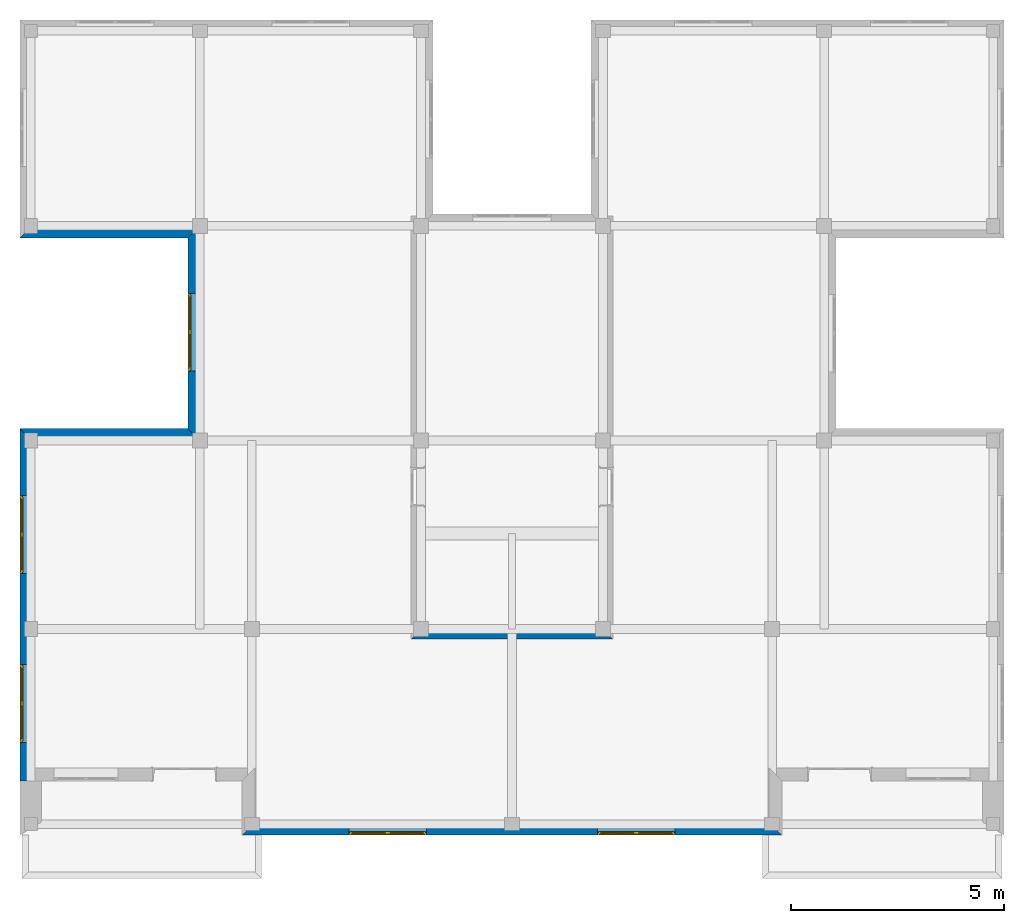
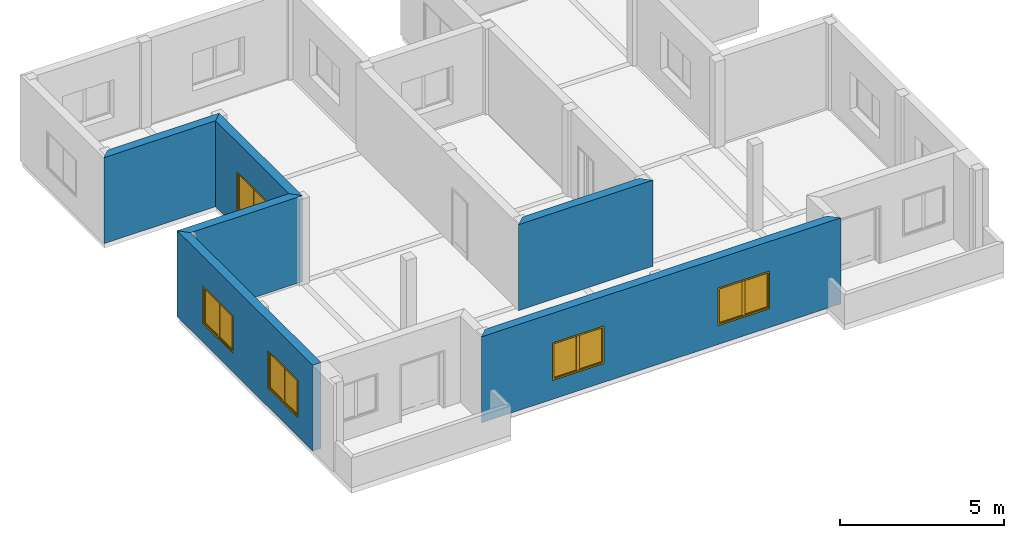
# One storey, part 3 of 6: 6 walls, 5 windows, 5 openings.
"""IFC2X3 building model written with IfcOpenShell, lengths in millimetres."""

import ifcopenshell
import ifcopenshell.guid

model = None  # the IFC model being written
_history = None  # IfcOwnerHistory: only IFC2X3 demands one
_inside = {}  # id of a spatial element -> (the spatial element, [elements in it])
_under = {}  # id of a project, library or spatial element -> (it, [spatial elements below it])
_declared = {}  # id of a project -> (the project, [libraries it declares])
_typed = {}  # id of a type object -> (the type object, [elements of that type])
_made_of = {}  # id of a material, layer set ... -> (it, [elements and type objects made of it])


def new_model(schema):
    """Start an empty IFC model of exactly this schema.

    Asked for "IFC4X3", IfcOpenShell would pick the latest addendum, in which some entities
    have other attributes; the version numbers below select the first issue.
    IFC2X3 requires an IfcOwnerHistory on every rooted entity: one is made here for all.
    """
    global model, _history
    if schema == "IFC4X3":
        model = ifcopenshell.file(schema_version=(4, 3, 0, 0))
    else:
        model = ifcopenshell.file(schema=schema)
    _inside.clear()
    _under.clear()
    _declared.clear()
    _typed.clear()
    _made_of.clear()
    _history = None
    if model.schema == "IFC2X3":
        org = make("IfcOrganization", Name="unknown")
        user = make(
            "IfcPersonAndOrganization",
            ThePerson=make("IfcPerson", FamilyName="unknown"),
            TheOrganization=org,
        )
        app = make(
            "IfcApplication",
            ApplicationDeveloper=org,
            Version="unknown",
            ApplicationFullName="unknown",
            ApplicationIdentifier="unknown",
        )
        _history = make(
            "IfcOwnerHistory",
            OwningUser=user,
            OwningApplication=app,
            ChangeAction="ADDED",
            CreationDate=0,
        )
    return model


def make(cls, **values):
    """One entity of the class cls with the attributes given. An attribute that is None is left unset."""
    return model.create_entity(
        cls, **{name: value for name, value in values.items() if value is not None}
    )


def entity(cls, *values):
    """Any entity or typed value of the class cls, its attributes in the order of the schema. None: left unset."""
    e = model.create_entity(cls)
    for i, value in enumerate(values):
        if value is not None:
            e[i] = value
    return e


def rooted(cls, **values):
    """An entity with a GlobalId (a new one), such as an element, a storey or a relation."""
    return make(cls, GlobalId=ifcopenshell.guid.new(), OwnerHistory=_history, **values)


def si_unit(unit_type, name, prefix=None):
    """IfcSIUnit, for example si_unit("LENGTHUNIT", "METRE", prefix="MILLI")."""
    return make("IfcSIUnit", UnitType=unit_type, Prefix=prefix, Name=name)


def converted_unit(unit_type, name, factor, base, dimensions=None, offset=None):
    """IfcConversionBasedUnit, such as the inch: factor (a typed value) times the base unit."""
    return make(
        "IfcConversionBasedUnit"
        if offset is None
        else "IfcConversionBasedUnitWithOffset",
        ConversionOffset=offset,
        Dimensions=None
        if dimensions is None
        else entity("IfcDimensionalExponents", *dimensions),
        UnitType=unit_type,
        Name=name,
        ConversionFactor=make(
            "IfcMeasureWithUnit", ValueComponent=factor, UnitComponent=base
        ),
    )


def assignment(units):
    """IfcUnitAssignment: the units of a project."""
    return None if units is None else make("IfcUnitAssignment", Units=units)


def point(xyz):
    """IfcCartesianPoint."""
    return None if xyz is None else make("IfcCartesianPoint", Coordinates=xyz)


def direction(xyz):
    """IfcDirection."""
    return None if xyz is None else make("IfcDirection", DirectionRatios=xyz)


def frame(location, z_axis=None, x_axis=None):
    """IfcAxis2Placement3D, a coordinate frame: its origin and axes. An axis left out is left unset."""
    return make(
        "IfcAxis2Placement3D",
        Location=point(location),
        Axis=direction(z_axis),
        RefDirection=direction(x_axis),
    )


def frame_2d(location, x_axis=None):
    """IfcAxis2Placement2D, a coordinate frame in the plane: its origin and x axis."""
    return make(
        "IfcAxis2Placement2D", Location=point(location), RefDirection=direction(x_axis)
    )


def origin_with_axes():
    """The frame at (0, 0, 0) with the z axis (0, 0, 1) and the x axis (1, 0, 0) written out."""
    return frame((0.0, 0.0, 0.0), z_axis=(0.0, 0.0, 1.0), x_axis=(1.0, 0.0, 0.0))


def origin_2d_with_axis():
    """The frame at (0, 0) in the plane with the x axis (1, 0) written out."""
    return frame_2d((0.0, 0.0), x_axis=(1.0, 0.0))


def place(relative_to, where):
    """IfcLocalPlacement: puts the frame where relative to a parent placement (None: the world)."""
    return make(
        "IfcLocalPlacement", PlacementRelTo=relative_to, RelativePlacement=where
    )


def context(
    kind, dimensions, precision=None, world=None, true_north=None, identifier=None
):
    """IfcGeometricRepresentationContext, for example the 3D "Model" context."""
    return make(
        "IfcGeometricRepresentationContext",
        ContextIdentifier=identifier,
        ContextType=kind,
        CoordinateSpaceDimension=dimensions,
        Precision=precision,
        WorldCoordinateSystem=world,
        TrueNorth=true_north,
    )


def subcontext(parent, identifier, kind, view, scale=None):
    """IfcGeometricRepresentationSubContext, for example "Body" below "Model"."""
    return make(
        "IfcGeometricRepresentationSubContext",
        ContextIdentifier=identifier,
        ContextType=kind,
        ParentContext=parent,
        TargetScale=scale,
        TargetView=view,
    )


def project(units=None, contexts=None):
    """IfcProject with its units and contexts."""
    return rooted(
        "IfcProject",
        Name="project",
        RepresentationContexts=contexts,
        UnitsInContext=assignment(units),
    )


def spatial(cls, under=None, at=None, **own):
    """A site, building, storey or space (cls), placed at a placement, below another one or the project."""
    s = rooted(cls, ObjectPlacement=at, **own)
    if under is not None:
        _under.setdefault(under.id(), (under, []))[1].append(s)
    return s


def polyline(points):
    """IfcPolyline through the points."""
    return make("IfcPolyline", Points=[point(p) for p in points])


def profile(cls, at=None, kind="AREA", **sizes):
    """A parametric profile (cls). Its sizes go by their IFC names, for example OverallWidth=200.0."""
    return make(cls, ProfileType=kind, Position=at, **sizes)


def rectangle(**sizes):
    """IfcRectangleProfileDef."""
    return profile("IfcRectangleProfileDef", **sizes)


def outline(outer, holes=None, kind="AREA"):
    """IfcArbitraryClosedProfileDef: a profile drawn as a closed curve; with holes, ...WithVoids."""
    if holes is None:
        return make("IfcArbitraryClosedProfileDef", ProfileType=kind, OuterCurve=outer)
    return make(
        "IfcArbitraryProfileDefWithVoids",
        ProfileType=kind,
        OuterCurve=outer,
        InnerCurves=holes,
    )


def extrude(swept, where, along, depth):
    """IfcExtrudedAreaSolid: the profile swept, set in the frame where, extruded along a direction by depth."""
    return make(
        "IfcExtrudedAreaSolid",
        SweptArea=swept,
        Position=where,
        ExtrudedDirection=direction(along),
        Depth=depth,
    )


def faces_of(points, faces, orient=None, outer=None):
    """IfcFace entities. A face is a list of loops; a loop is a list of indices into points, from 0.

    orient and outer hold one flag for each loop. By default every Orientation is true, the
    first loop of a face is its IfcFaceOuterBound and the others are IfcFaceBound.
    """
    made = []
    for i, loops in enumerate(faces):
        bounds = []
        for j, loop in enumerate(loops):
            is_outer = j == 0 if outer is None else outer[i][j]
            bounds.append(
                make(
                    "IfcFaceOuterBound" if is_outer else "IfcFaceBound",
                    Bound=make("IfcPolyLoop", Polygon=[points[k] for k in loop]),
                    Orientation=True if orient is None else orient[i][j],
                )
            )
        made.append(make("IfcFace", Bounds=bounds))
    return made


def faceted_brep(points, faces, orient=None, outer=None, voids=None):
    """IfcFacetedBrep: a solid bounded by flat faces; with voids (closed shells), ...WithVoids."""
    shared = [point(p) for p in points]
    hull = make("IfcClosedShell", CfsFaces=faces_of(shared, faces, orient, outer))
    if voids is None:
        return make("IfcFacetedBrep", Outer=hull)
    return make(
        "IfcFacetedBrepWithVoids",
        Outer=hull,
        Voids=[
            make(cls, CfsFaces=faces_of(shared, fs, o, b)) for cls, fs, o, b in voids
        ],
    )


def shape(context_of_items, identifier, shape_type, items):
    """IfcShapeRepresentation: the items that make up one representation, for example the "Body"."""
    return make(
        "IfcShapeRepresentation",
        ContextOfItems=context_of_items,
        RepresentationIdentifier=identifier,
        RepresentationType=shape_type,
        Items=items,
    )


def source(mapping_origin, context_of_items, identifier, shape_type, items):
    """IfcRepresentationMap: a shape defined once, which mapped items show again and again."""
    return make(
        "IfcRepresentationMap",
        MappingOrigin=mapping_origin,
        MappedRepresentation=shape(context_of_items, identifier, shape_type, items),
    )


def transform(
    local_origin,
    x_axis=None,
    y_axis=None,
    z_axis=None,
    scale=None,
    scale2=None,
    scale3=None,
    uniform=True,
):
    """IfcCartesianTransformationOperator3D, or its non-uniform kind. x_axis, y_axis, z_axis: its Axis1, 2, 3."""
    if uniform:
        return make(
            "IfcCartesianTransformationOperator3D",
            Axis1=direction(x_axis),
            Axis2=direction(y_axis),
            LocalOrigin=point(local_origin),
            Scale=scale,
            Axis3=direction(z_axis),
        )
    return make(
        "IfcCartesianTransformationOperator3DnonUniform",
        Axis1=direction(x_axis),
        Axis2=direction(y_axis),
        LocalOrigin=point(local_origin),
        Scale=scale,
        Axis3=direction(z_axis),
        Scale2=scale2,
        Scale3=scale3,
    )


def mapped(mapping_source, mapping_target):
    """IfcMappedItem: shows the shape of a source again, moved by a transform."""
    return make(
        "IfcMappedItem", MappingSource=mapping_source, MappingTarget=mapping_target
    )


def material(Name=None, Category=None):
    """IfcMaterial."""
    return make("IfcMaterial", Name=Name, Category=Category)


def layer(
    of_material, thickness, ventilated=None, Name=None, Category=None, Priority=None
):
    """IfcMaterialLayer: one layer of a wall or slab, of a material (None: an air gap)."""
    return make(
        "IfcMaterialLayer",
        Material=of_material,
        LayerThickness=thickness,
        IsVentilated=ventilated,
        Name=Name,
        Category=Category,
        Priority=Priority,
    )


def layer_set(layers, Name=None):
    """IfcMaterialLayerSet."""
    return make("IfcMaterialLayerSet", MaterialLayers=layers, LayerSetName=Name)


def layer_usage(for_layer_set, set_direction, sense, offset, extent=None):
    """IfcMaterialLayerSetUsage: how a layer set lies in its element."""
    return make(
        "IfcMaterialLayerSetUsage",
        ForLayerSet=for_layer_set,
        LayerSetDirection=set_direction,
        DirectionSense=sense,
        OffsetFromReferenceLine=offset,
        ReferenceExtent=extent,
    )


def made_of(thing, what):
    """Note that an element or type object is made of a material, layer set ...; save() writes the relation."""
    if what is not None:
        _made_of.setdefault(what.id(), (what, []))[1].append(thing)
    return thing


def type_object(cls, material=None, **own):
    """A type object (cls), such as IfcWallType, which elements share."""
    return made_of(rooted(cls, **own), material)


def element(
    cls,
    number,
    at=None,
    inside=None,
    cuts=None,
    type_object=None,
    material=None,
    context=None,
    identifier="Body",
    shape_type=None,
    held_by="IfcProductDefinitionShape",
    body=None,
    shapes=None,
    **own,
):
    """One element of the class cls, such as IfcWall. Its Tag is "e" and its number.

    at: its placement. inside: the storey or other place that contains it. cuts: it is an
    opening in that element (IfcRelVoidsElement). A single representation is given by context,
    identifier, shape_type and body (its items); several are given by shapes. held_by: the class
    of the entity that holds the representations. save() writes the other relations.
    """
    e = rooted(cls, Tag="e%d" % number, ObjectPlacement=at, **own)
    if body is not None:
        shapes = [shape(context, identifier, shape_type, body)]
    if shapes is not None:
        e.Representation = make(held_by, Representations=shapes)
    if inside is not None:
        _inside.setdefault(inside.id(), (inside, []))[1].append(e)
    if cuts is not None:
        rooted(
            "IfcRelVoidsElement", RelatingBuildingElement=cuts, RelatedOpeningElement=e
        )
    if type_object is not None:
        _typed.setdefault(type_object.id(), (type_object, []))[1].append(e)
    return made_of(e, material)


def fill(opening, filler):
    """IfcRelFillsElement: the door or window that sits in an opening."""
    return rooted(
        "IfcRelFillsElement",
        RelatingOpeningElement=opening,
        RelatedBuildingElement=filler,
    )


def aggregate(whole, parts):
    """IfcRelAggregates: a whole, such as a stair, and the parts it consists of."""
    return rooted("IfcRelAggregates", RelatingObject=whole, RelatedObjects=parts)


def save(model, path):
    """Write the relations noted so far, then the file.

    IfcRelAggregates (storeys below a building ...), IfcRelContainedInSpatialStructure (elements
    in a storey), IfcRelDefinesByType, IfcRelAssociatesMaterial and IfcRelDeclares: one each for
    every whole, place, type object, material and project.
    """
    for whole, parts in _under.values():
        aggregate(whole, parts)
    for where, things in _inside.values():
        rooted(
            "IfcRelContainedInSpatialStructure",
            RelatedElements=things,
            RelatingStructure=where,
        )
    for kind, things in _typed.values():
        rooted("IfcRelDefinesByType", RelatedObjects=things, RelatingType=kind)
    for what, things in _made_of.values():
        rooted("IfcRelAssociatesMaterial", RelatedObjects=things, RelatingMaterial=what)
    for by, libraries in _declared.values():
        rooted("IfcRelDeclares", RelatingContext=by, RelatedDefinitions=libraries)
    model.write(path)


model = new_model("IFC2X3")

# Units and contexts
model_context = context("Model", 3, precision=1e-05, world=origin_with_axes(), true_north=direction((0.0, 1.0)))
body_context = subcontext(model_context, "Body", "Model", "MODEL_VIEW")
ifc_project = project(units=[si_unit("LENGTHUNIT", "METRE", prefix="MILLI"), si_unit("AREAUNIT", "SQUARE_METRE"), si_unit("VOLUMEUNIT", "CUBIC_METRE"), converted_unit("PLANEANGLEUNIT", "DEGREE", entity("IfcPlaneAngleMeasure", 0.017453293), si_unit("PLANEANGLEUNIT", "RADIAN"), dimensions=[0, 0, 0, 0, 0, 0, 0]), si_unit("SOLIDANGLEUNIT", "STERADIAN"), si_unit("MASSUNIT", "GRAM"), si_unit("TIMEUNIT", "SECOND"), si_unit("THERMODYNAMICTEMPERATUREUNIT", "DEGREE_CELSIUS"), si_unit("LUMINOUSINTENSITYUNIT", "LUMEN")], contexts=[model_context])

# Site, building, storey
site_placement = place(None, origin_with_axes())
site = spatial("IfcSite", under=ifc_project, at=site_placement, Name="Sitio", CompositionType="ELEMENT")
building_placement = place(site_placement, origin_with_axes())
building = spatial("IfcBuilding", under=site, at=building_placement, Name="Ejemplo_StruBIM", CompositionType="ELEMENT")
storey_placement = place(building_placement, frame((0.0, 0.0, 12801.6), z_axis=(0.0, 0.0, 1.0), x_axis=(1.0, 0.0, 0.0)))
storey = spatial("IfcBuildingStorey", under=building, at=storey_placement, Name="Fourth floor", CompositionType="ELEMENT", Elevation=12801.6)

# Wall
ifc_material_1 = material(Name="Bloque mampostería")
ifc_layer = layer(ifc_material_1, 300.0, ventilated="UNKNOWN")
ifc_layer_set = layer_set([ifc_layer], Name="Bloque mampostería 300")
ifc_layer_usage_1 = layer_usage(ifc_layer_set, "AXIS2", "POSITIVE", 0.0)
wall_type = type_object("IfcWallType", Name="Bloque mampostería 11 3/4\"", PredefinedType="NOTDEFINED")
wall_1_placement = place(storey_placement, frame((-254.0, 13741.4, 0.0), z_axis=(0.0, 0.0, 1.0), x_axis=(1.0, 0.0, 0.0)))
element("IfcWallStandardCase", 1, at=wall_1_placement, inside=storey, type_object=wall_type, material=ifc_layer_usage_1, Name="Muro-007", context=body_context, shape_type="SweptSolid", body=[
    extrude(outline(polyline([(0.0, 0.0), (3937.0, 0.0), (4237.0, 300.0), (300.0, 300.0), (0.0, 0.0)])), origin_with_axes(), (0.0, 0.0, 1.0), 3200.4),
])

# Wall, opening, window
ifc_layer_usage_2 = layer_usage(ifc_layer_set, "AXIS2", "POSITIVE", 0.0)
wall_2_placement = place(storey_placement, frame((3683.0, 13741.4, 0.0), z_axis=(0.0, 0.0, 1.0), x_axis=(0.0, -1.0, 0.0)))
wall_2 = element("IfcWallStandardCase", 2, at=wall_2_placement, inside=storey, type_object=wall_type, material=ifc_layer_usage_2, Name="Muro-008", context=body_context, shape_type="SweptSolid", body=[
    extrude(outline(polyline([(0.0, 0.0), (4470.4, 0.0), (4770.4, 300.0), (-300.0, 300.0), (0.0, 0.0)])), origin_with_axes(), (0.0, 0.0, 1.0), 3200.4),
])
opening_1_placement = place(wall_2_placement, frame((2209.8, 0.0, 700.0), z_axis=(0.0, 0.0, 1.0), x_axis=(1.0, 0.0, 0.0)))
opening_1 = element("IfcOpeningElement", 3, at=opening_1_placement, cuts=wall_2, Name="V19", context=body_context, shape_type="SweptSolid", body=[
    extrude(rectangle(XDim=1820.0, YDim=1400.0, at=origin_2d_with_axis()), frame((0.0, 300.0, 700.0), z_axis=(0.0, 1.0, 0.0), x_axis=(1.0, 0.0, 0.0)), (0.0, 0.0, -1.0), 300.0),
])
ifc_material_2 = material(Name="Fondo")
window_style = type_object("IfcWindowStyle", Name="Ventana Doble Hoja 16", ConstructionType="NOTDEFINED", OperationType="DOUBLE_PANEL_HORIZONTAL", ParameterTakesPrecedence=False, Sizeable=False)
shared_shape_1 = source(origin_with_axes(), body_context, "Body", "Brep", [
    faceted_brep([(885.0, -50.0, 1350.0), (910.0, -50.0, 1350.0), (910.0, 0.0, 1350.0), (860.0, 0.0, 1350.0), (860.0, -25.0, 1350.0), (885.0, -25.0, 1350.0), (885.0, -50.0, 50.0), (910.0, -50.0, 50.0), (910.0, 0.0, 50.0), (860.0, 0.0, 50.0), (860.0, -25.0, 50.0), (885.0, -25.0, 50.0)], [[[0, 1, 2, 3, 4, 5]], [[6, 7, 1, 0]], [[1, 7, 8, 2]], [[2, 8, 9, 3]], [[4, 3, 9, 10]], [[10, 11, 5, 4]], [[5, 11, 6, 0]], [[11, 10, 9, 8, 7, 6]]]),
    faceted_brep([(-860.0, -25.0, 1350.0), (-860.0, 0.0, 1350.0), (-910.0, 0.0, 1350.0), (-910.0, -50.0, 1350.0), (-885.0, -50.0, 1350.0), (-885.0, -25.0, 1350.0), (-860.0, -25.0, 50.0), (-860.0, 0.0, 50.0), (-910.0, 0.0, 50.0), (-910.0, -50.0, 50.0), (-885.0, -50.0, 50.0), (-885.0, -25.0, 50.0)], [[[0, 1, 2, 3, 4, 5]], [[6, 7, 1, 0]], [[8, 2, 1, 7]], [[9, 3, 2, 8]], [[4, 3, 9, 10]], [[10, 11, 5, 4]], [[5, 11, 6, 0]], [[11, 10, 9, 8, 7, 6]]]),
    faceted_brep([(-860.0, -25.0, 50.0), (-860.0, 0.0, 50.0), (-910.0, 0.0, 50.0), (-910.0, -50.0, 50.0), (-885.0, -50.0, 50.0), (-885.0, -25.0, 50.0), (860.0, -25.0, 50.0), (860.0, 0.0, 50.0), (910.0, 0.0, 50.0), (910.0, 0.0, 0.0), (-910.0, 0.0, 0.0), (-910.0, -50.0, 0.0), (885.0, -50.0, 25.0), (-885.0, -50.0, 25.0), (910.0, -50.0, 0.0), (910.0, -50.0, 50.0), (885.0, -50.0, 50.0), (-885.0, -25.0, 25.0), (885.0, -25.0, 25.0), (885.0, -25.0, 50.0)], [[[0, 1, 2, 3, 4, 5]], [[6, 7, 1, 0]], [[8, 9, 10, 2, 1, 7]], [[11, 3, 2, 10]], [[12, 13, 4, 3, 11, 14, 15, 16]], [[13, 17, 5, 4]], [[5, 17, 18, 19, 6, 0]], [[19, 16, 15, 8, 7, 6]], [[15, 14, 9, 8]], [[14, 11, 10, 9]], [[12, 18, 17, 13]], [[19, 18, 12, 16]]]),
    faceted_brep([(885.0, -50.0, 1350.0), (910.0, -50.0, 1350.0), (910.0, -50.0, 1400.0), (-910.0, -50.0, 1400.0), (-910.0, -50.0, 1350.0), (-885.0, -50.0, 1350.0), (-885.0, -50.0, 1375.0), (885.0, -50.0, 1375.0), (885.0, -25.0, 1350.0), (860.0, -25.0, 1350.0), (860.0, 0.0, 1350.0), (910.0, 0.0, 1350.0), (910.0, 0.0, 1400.0), (-910.0, 0.0, 1400.0), (-910.0, 0.0, 1350.0), (-885.0, -25.0, 1350.0), (-860.0, 0.0, 1350.0), (-860.0, -25.0, 1350.0), (-885.0, -25.0, 1375.0), (885.0, -25.0, 1375.0)], [[[0, 1, 2, 3, 4, 5, 6, 7]], [[8, 9, 10, 11, 1, 0]], [[2, 1, 11, 12]], [[3, 2, 12, 13]], [[4, 3, 13, 14]], [[15, 5, 4, 14, 16, 17]], [[5, 15, 18, 6]], [[6, 18, 19, 7]], [[7, 19, 8, 0]], [[17, 9, 8, 19, 18, 15]], [[17, 16, 10, 9]], [[14, 13, 12, 11, 10, 16]]]),
    faceted_brep([(835.0, -25.0, 1325.0), (835.0, -75.0, 1325.0), (885.0, -75.0, 1325.0), (885.0, -25.0, 1325.0), (835.0, -25.0, 75.0), (835.0, -75.0, 75.0), (885.0, -75.0, 75.0), (885.0, -25.0, 75.0)], [[[0, 1, 2, 3]], [[4, 5, 1, 0]], [[1, 5, 6, 2]], [[3, 2, 6, 7]], [[0, 3, 7, 4]], [[7, 6, 5, 4]]]),
    faceted_brep([(50.0, -25.0, 75.0), (50.0, -75.0, 75.0), (0.0, -75.0, 75.0), (0.0, -25.0, 75.0), (50.0, -25.0, 1325.0), (50.0, -75.0, 1325.0), (0.0, -75.0, 1325.0), (0.0, -25.0, 1325.0)], [[[0, 1, 2, 3]], [[4, 5, 1, 0]], [[1, 5, 6, 2]], [[3, 2, 6, 7]], [[0, 3, 7, 4]], [[7, 6, 5, 4]]]),
    faceted_brep([(0.0, -25.0, 25.0), (0.0, -75.0, 25.0), (0.0, -75.0, 75.0), (0.0, -25.0, 75.0), (885.0, -25.0, 25.0), (885.0, -75.0, 25.0), (885.0, -75.0, 75.0), (835.0, -75.0, 75.0), (50.0, -75.0, 75.0), (50.0, -25.0, 75.0), (835.0, -25.0, 75.0), (885.0, -25.0, 75.0)], [[[0, 1, 2, 3]], [[4, 5, 1, 0]], [[1, 5, 6, 7, 8, 2]], [[3, 2, 8, 9]], [[0, 3, 9, 10, 11, 4]], [[11, 6, 5, 4]], [[10, 7, 6, 11]], [[9, 8, 7, 10]]]),
    faceted_brep([(885.0, -25.0, 1375.0), (885.0, -75.0, 1375.0), (885.0, -75.0, 1325.0), (885.0, -25.0, 1325.0), (0.0, -25.0, 1375.0), (0.0, -75.0, 1375.0), (0.0, -75.0, 1325.0), (50.0, -75.0, 1325.0), (835.0, -75.0, 1325.0), (835.0, -25.0, 1325.0), (50.0, -25.0, 1325.0), (0.0, -25.0, 1325.0)], [[[0, 1, 2, 3]], [[4, 5, 1, 0]], [[1, 5, 6, 7, 8, 2]], [[3, 2, 8, 9]], [[0, 3, 9, 10, 11, 4]], [[11, 6, 5, 4]], [[10, 7, 6, 11]], [[9, 8, 7, 10]]]),
    faceted_brep([(835.0, -40.0, 75.0), (835.0, -60.0, 75.0), (50.0, -60.0, 75.0), (50.0, -40.0, 75.0), (835.0, -40.0, 1325.0), (835.0, -60.0, 1325.0), (50.0, -60.0, 1325.0), (50.0, -40.0, 1325.0)], [[[0, 1, 2, 3]], [[4, 5, 1, 0]], [[1, 5, 6, 2]], [[3, 2, 6, 7]], [[0, 3, 7, 4]], [[7, 6, 5, 4]]]),
    faceted_brep([(-50.0, -25.0, 1325.0), (-50.0, -75.0, 1325.0), (0.0, -75.0, 1325.0), (0.0, -25.0, 1325.0), (-50.0, -25.0, 75.0), (-50.0, -75.0, 75.0), (0.0, -75.0, 75.0), (0.0, -25.0, 75.0)], [[[0, 1, 2, 3]], [[4, 5, 1, 0]], [[1, 5, 6, 2]], [[3, 2, 6, 7]], [[0, 3, 7, 4]], [[7, 6, 5, 4]]]),
    faceted_brep([(-835.0, -25.0, 75.0), (-835.0, -75.0, 75.0), (-885.0, -75.0, 75.0), (-885.0, -25.0, 75.0), (-835.0, -25.0, 1325.0), (-835.0, -75.0, 1325.0), (-885.0, -75.0, 1325.0), (-885.0, -25.0, 1325.0)], [[[0, 1, 2, 3]], [[4, 5, 1, 0]], [[1, 5, 6, 2]], [[3, 2, 6, 7]], [[0, 3, 7, 4]], [[7, 6, 5, 4]]]),
    faceted_brep([(-885.0, -25.0, 25.0), (-885.0, -75.0, 25.0), (-885.0, -75.0, 75.0), (-885.0, -25.0, 75.0), (0.0, -25.0, 25.0), (0.0, -75.0, 25.0), (0.0, -75.0, 75.0), (-50.0, -75.0, 75.0), (-835.0, -75.0, 75.0), (-835.0, -25.0, 75.0), (-50.0, -25.0, 75.0), (0.0, -25.0, 75.0)], [[[0, 1, 2, 3]], [[4, 5, 1, 0]], [[1, 5, 6, 7, 8, 2]], [[3, 2, 8, 9]], [[0, 3, 9, 10, 11, 4]], [[11, 6, 5, 4]], [[10, 7, 6, 11]], [[9, 8, 7, 10]]]),
    faceted_brep([(0.0, -25.0, 1375.0), (0.0, -75.0, 1375.0), (0.0, -75.0, 1325.0), (0.0, -25.0, 1325.0), (-885.0, -25.0, 1375.0), (-885.0, -75.0, 1375.0), (-885.0, -75.0, 1325.0), (-835.0, -75.0, 1325.0), (-50.0, -75.0, 1325.0), (-50.0, -25.0, 1325.0), (-835.0, -25.0, 1325.0), (-885.0, -25.0, 1325.0)], [[[0, 1, 2, 3]], [[4, 5, 1, 0]], [[1, 5, 6, 7, 8, 2]], [[3, 2, 8, 9]], [[0, 3, 9, 10, 11, 4]], [[11, 6, 5, 4]], [[10, 7, 6, 11]], [[9, 8, 7, 10]]]),
    faceted_brep([(-50.0, -40.0, 75.0), (-50.0, -60.0, 75.0), (-835.0, -60.0, 75.0), (-835.0, -40.0, 75.0), (-50.0, -40.0, 1325.0), (-50.0, -60.0, 1325.0), (-835.0, -60.0, 1325.0), (-835.0, -40.0, 1325.0)], [[[0, 1, 2, 3]], [[4, 5, 1, 0]], [[1, 5, 6, 2]], [[3, 2, 6, 7]], [[0, 3, 7, 4]], [[7, 6, 5, 4]]]),
])
window_1_placement = place(opening_1_placement, frame((910.0, 0.0, 0.0), z_axis=(0.0, 0.0, 1.0), x_axis=(-1.0, 0.0, 0.0)))
window_1 = element("IfcWindow", 4, at=window_1_placement, inside=storey, type_object=window_style, material=ifc_material_2, Name="V19", OverallHeight=1400.0, OverallWidth=1820.0, context=body_context, shape_type="MappedRepresentation", body=[
    mapped(shared_shape_1, transform((910.0, 0.0, 0.0))),
])
fill(opening_1, window_1)

# Wall
ifc_layer_usage_3 = layer_usage(ifc_layer_set, "AXIS2", "POSITIVE", 0.0)
wall_3_placement = place(storey_placement, frame((3683.0, 9271.0, 0.0), z_axis=(0.0, 0.0, 1.0), x_axis=(-1.0, 0.0, 0.0)))
element("IfcWallStandardCase", 5, at=wall_3_placement, inside=storey, type_object=wall_type, material=ifc_layer_usage_3, Name="Muro-009", context=body_context, shape_type="SweptSolid", body=[
    extrude(outline(polyline([(0.0, 0.0), (3937.0, 0.0), (3637.0, 300.0), (-300.0, 300.0), (0.0, 0.0)])), origin_with_axes(), (0.0, 0.0, 1.0), 3200.4),
])

# Wall, openings, windows
ifc_layer_usage_4 = layer_usage(ifc_layer_set, "AXIS2", "POSITIVE", 0.0)
wall_4_placement = place(storey_placement, frame((-254.0, 9271.0, 0.0), z_axis=(0.0, 0.0, 1.0), x_axis=(0.0, -1.0, 0.0)))
wall_4 = element("IfcWallStandardCase", 6, at=wall_4_placement, inside=storey, type_object=wall_type, material=ifc_layer_usage_4, Name="Muro-010", context=body_context, shape_type="SweptSolid", body=[
    extrude(outline(polyline([(0.0, 0.0), (8255.0, 0.0), (8255.0, 300.0), (300.0, 300.0), (0.0, 0.0)])), origin_with_axes(), (0.0, 0.0, 1.0), 3200.4),
])
opening_2_placement = place(wall_4_placement, frame((2484.8, 0.0, 700.0), z_axis=(0.0, 0.0, 1.0), x_axis=(1.0, 0.0, 0.0)))
opening_2 = element("IfcOpeningElement", 7, at=opening_2_placement, cuts=wall_4, Name="V06", context=body_context, shape_type="SweptSolid", body=[
    extrude(rectangle(XDim=1820.0, YDim=1400.0, at=origin_2d_with_axis()), frame((0.0, 300.0, 700.0), z_axis=(0.0, 1.0, 0.0), x_axis=(1.0, 0.0, 0.0)), (0.0, 0.0, -1.0), 300.0),
])
opening_3_placement = place(wall_4_placement, frame((6443.3, 0.0, 700.0), z_axis=(0.0, 0.0, 1.0), x_axis=(1.0, 0.0, 0.0)))
opening_3 = element("IfcOpeningElement", 8, at=opening_3_placement, cuts=wall_4, Name="V07", context=body_context, shape_type="SweptSolid", body=[
    extrude(rectangle(XDim=1820.0, YDim=1400.0, at=origin_2d_with_axis()), frame((0.0, 300.0, 700.0), z_axis=(0.0, -1.0, 0.0), x_axis=(1.0, 0.0, 0.0)), (0.0, 0.0, 1.0), 300.0),
])
shared_shape_2 = source(origin_with_axes(), body_context, "Body", "Brep", [
    faceted_brep([(-885.0, -50.0, 1350.0), (-885.0, -25.0, 1350.0), (-860.0, -25.0, 1350.0), (-860.0, 0.0, 1350.0), (-910.0, 0.0, 1350.0), (-910.0, -50.0, 1350.0), (-885.0, -50.0, 50.0), (-885.0, -25.0, 50.0), (-860.0, -25.0, 50.0), (-860.0, 0.0, 50.0), (-910.0, 0.0, 50.0), (-910.0, -50.0, 50.0)], [[[0, 1, 2, 3, 4, 5]], [[1, 0, 6, 7]], [[8, 2, 1, 7]], [[2, 8, 9, 3]], [[4, 3, 9, 10]], [[5, 4, 10, 11]], [[6, 0, 5, 11]], [[7, 6, 11, 10, 9, 8]]]),
    faceted_brep([(860.0, -25.0, 1350.0), (885.0, -25.0, 1350.0), (885.0, -50.0, 1350.0), (910.0, -50.0, 1350.0), (910.0, 0.0, 1350.0), (860.0, 0.0, 1350.0), (860.0, -25.0, 50.0), (885.0, -25.0, 50.0), (885.0, -50.0, 50.0), (910.0, -50.0, 50.0), (910.0, 0.0, 50.0), (860.0, 0.0, 50.0)], [[[0, 1, 2, 3, 4, 5]], [[1, 0, 6, 7]], [[8, 2, 1, 7]], [[2, 8, 9, 3]], [[9, 10, 4, 3]], [[10, 11, 5, 4]], [[6, 0, 5, 11]], [[7, 6, 11, 10, 9, 8]]]),
    faceted_brep([(860.0, -25.0, 50.0), (885.0, -25.0, 50.0), (885.0, -50.0, 50.0), (910.0, -50.0, 50.0), (910.0, 0.0, 50.0), (860.0, 0.0, 50.0), (-860.0, -25.0, 50.0), (-885.0, -25.0, 50.0), (-885.0, -25.0, 25.0), (885.0, -25.0, 25.0), (885.0, -50.0, 25.0), (-885.0, -50.0, 25.0), (-885.0, -50.0, 50.0), (-910.0, -50.0, 50.0), (-910.0, -50.0, 0.0), (910.0, -50.0, 0.0), (910.0, 0.0, 0.0), (-910.0, 0.0, 50.0), (-860.0, 0.0, 50.0), (-910.0, 0.0, 0.0)], [[[0, 1, 2, 3, 4, 5]], [[1, 0, 6, 7, 8, 9]], [[10, 2, 1, 9]], [[11, 12, 13, 14, 15, 3, 2, 10]], [[15, 16, 4, 3]], [[17, 18, 5, 4, 16, 19]], [[6, 0, 5, 18]], [[7, 6, 18, 17, 13, 12]], [[7, 12, 11, 8]], [[11, 10, 9, 8]], [[13, 17, 19, 14]], [[14, 19, 16, 15]]]),
    faceted_brep([(-885.0, -50.0, 1350.0), (-885.0, -50.0, 1375.0), (885.0, -50.0, 1375.0), (885.0, -50.0, 1350.0), (910.0, -50.0, 1350.0), (910.0, -50.0, 1400.0), (-910.0, -50.0, 1400.0), (-910.0, -50.0, 1350.0), (-885.0, -25.0, 1350.0), (-885.0, -25.0, 1375.0), (885.0, -25.0, 1375.0), (885.0, -25.0, 1350.0), (860.0, -25.0, 1350.0), (860.0, 0.0, 1350.0), (910.0, 0.0, 1350.0), (910.0, 0.0, 1400.0), (-910.0, 0.0, 1400.0), (-910.0, 0.0, 1350.0), (-860.0, 0.0, 1350.0), (-860.0, -25.0, 1350.0)], [[[0, 1, 2, 3, 4, 5, 6, 7]], [[1, 0, 8, 9]], [[2, 1, 9, 10]], [[3, 2, 10, 11]], [[11, 12, 13, 14, 4, 3]], [[4, 14, 15, 5]], [[5, 15, 16, 6]], [[6, 16, 17, 7]], [[8, 0, 7, 17, 18, 19]], [[12, 11, 10, 9, 8, 19]], [[12, 19, 18, 13]], [[14, 13, 18, 17, 16, 15]]]),
    faceted_brep([(-835.0, -25.0, 1325.0), (-885.0, -25.0, 1325.0), (-885.0, -75.0, 1325.0), (-835.0, -75.0, 1325.0), (-835.0, -25.0, 75.0), (-885.0, -25.0, 75.0), (-885.0, -75.0, 75.0), (-835.0, -75.0, 75.0)], [[[0, 1, 2, 3]], [[0, 4, 5, 1]], [[1, 5, 6, 2]], [[3, 2, 6, 7]], [[4, 0, 3, 7]], [[5, 4, 7, 6]]]),
    faceted_brep([(-50.0, -25.0, 75.0), (0.0, -25.0, 75.0), (0.0, -75.0, 75.0), (-50.0, -75.0, 75.0), (-50.0, -25.0, 1325.0), (0.0, -25.0, 1325.0), (0.0, -75.0, 1325.0), (-50.0, -75.0, 1325.0)], [[[0, 1, 2, 3]], [[0, 4, 5, 1]], [[1, 5, 6, 2]], [[3, 2, 6, 7]], [[4, 0, 3, 7]], [[5, 4, 7, 6]]]),
    faceted_brep([(0.0, -25.0, 25.0), (0.0, -25.0, 75.0), (0.0, -75.0, 75.0), (0.0, -75.0, 25.0), (-885.0, -25.0, 25.0), (-885.0, -25.0, 75.0), (-835.0, -25.0, 75.0), (-50.0, -25.0, 75.0), (-50.0, -75.0, 75.0), (-835.0, -75.0, 75.0), (-885.0, -75.0, 75.0), (-885.0, -75.0, 25.0)], [[[0, 1, 2, 3]], [[0, 4, 5, 6, 7, 1]], [[1, 7, 8, 2]], [[3, 2, 8, 9, 10, 11]], [[4, 0, 3, 11]], [[5, 4, 11, 10]], [[6, 5, 10, 9]], [[7, 6, 9, 8]]]),
    faceted_brep([(-885.0, -25.0, 1375.0), (-885.0, -25.0, 1325.0), (-885.0, -75.0, 1325.0), (-885.0, -75.0, 1375.0), (0.0, -25.0, 1375.0), (0.0, -25.0, 1325.0), (-50.0, -25.0, 1325.0), (-835.0, -25.0, 1325.0), (-835.0, -75.0, 1325.0), (-50.0, -75.0, 1325.0), (0.0, -75.0, 1325.0), (0.0, -75.0, 1375.0)], [[[0, 1, 2, 3]], [[0, 4, 5, 6, 7, 1]], [[1, 7, 8, 2]], [[3, 2, 8, 9, 10, 11]], [[4, 0, 3, 11]], [[5, 4, 11, 10]], [[6, 5, 10, 9]], [[7, 6, 9, 8]]]),
    faceted_brep([(-835.0, -40.0, 75.0), (-50.0, -40.0, 75.0), (-50.0, -60.0, 75.0), (-835.0, -60.0, 75.0), (-835.0, -40.0, 1325.0), (-50.0, -40.0, 1325.0), (-50.0, -60.0, 1325.0), (-835.0, -60.0, 1325.0)], [[[0, 1, 2, 3]], [[0, 4, 5, 1]], [[1, 5, 6, 2]], [[3, 2, 6, 7]], [[4, 0, 3, 7]], [[5, 4, 7, 6]]]),
    faceted_brep([(50.0, -25.0, 1325.0), (0.0, -25.0, 1325.0), (0.0, -75.0, 1325.0), (50.0, -75.0, 1325.0), (50.0, -25.0, 75.0), (0.0, -25.0, 75.0), (0.0, -75.0, 75.0), (50.0, -75.0, 75.0)], [[[0, 1, 2, 3]], [[0, 4, 5, 1]], [[1, 5, 6, 2]], [[3, 2, 6, 7]], [[4, 0, 3, 7]], [[5, 4, 7, 6]]]),
    faceted_brep([(835.0, -25.0, 75.0), (885.0, -25.0, 75.0), (885.0, -75.0, 75.0), (835.0, -75.0, 75.0), (835.0, -25.0, 1325.0), (885.0, -25.0, 1325.0), (885.0, -75.0, 1325.0), (835.0, -75.0, 1325.0)], [[[0, 1, 2, 3]], [[0, 4, 5, 1]], [[1, 5, 6, 2]], [[3, 2, 6, 7]], [[4, 0, 3, 7]], [[5, 4, 7, 6]]]),
    faceted_brep([(885.0, -25.0, 25.0), (885.0, -25.0, 75.0), (885.0, -75.0, 75.0), (885.0, -75.0, 25.0), (0.0, -25.0, 25.0), (0.0, -25.0, 75.0), (50.0, -25.0, 75.0), (835.0, -25.0, 75.0), (835.0, -75.0, 75.0), (50.0, -75.0, 75.0), (0.0, -75.0, 75.0), (0.0, -75.0, 25.0)], [[[0, 1, 2, 3]], [[0, 4, 5, 6, 7, 1]], [[1, 7, 8, 2]], [[3, 2, 8, 9, 10, 11]], [[4, 0, 3, 11]], [[5, 4, 11, 10]], [[6, 5, 10, 9]], [[7, 6, 9, 8]]]),
    faceted_brep([(0.0, -25.0, 1375.0), (0.0, -25.0, 1325.0), (0.0, -75.0, 1325.0), (0.0, -75.0, 1375.0), (885.0, -25.0, 1375.0), (885.0, -25.0, 1325.0), (835.0, -25.0, 1325.0), (50.0, -25.0, 1325.0), (50.0, -75.0, 1325.0), (835.0, -75.0, 1325.0), (885.0, -75.0, 1325.0), (885.0, -75.0, 1375.0)], [[[0, 1, 2, 3]], [[0, 4, 5, 6, 7, 1]], [[1, 7, 8, 2]], [[3, 2, 8, 9, 10, 11]], [[4, 0, 3, 11]], [[5, 4, 11, 10]], [[6, 5, 10, 9]], [[7, 6, 9, 8]]]),
    faceted_brep([(50.0, -40.0, 75.0), (835.0, -40.0, 75.0), (835.0, -60.0, 75.0), (50.0, -60.0, 75.0), (50.0, -40.0, 1325.0), (835.0, -40.0, 1325.0), (835.0, -60.0, 1325.0), (50.0, -60.0, 1325.0)], [[[0, 1, 2, 3]], [[0, 4, 5, 1]], [[1, 5, 6, 2]], [[3, 2, 6, 7]], [[4, 0, 3, 7]], [[5, 4, 7, 6]]]),
])
window_2_placement = place(opening_3_placement, frame((910.0, 0.0, 0.0), z_axis=(0.0, 0.0, 1.0), x_axis=(-1.0, 0.0, 0.0)))
window_2 = element("IfcWindow", 9, at=window_2_placement, inside=storey, type_object=window_style, material=ifc_material_2, Name="V07", OverallHeight=1400.0, OverallWidth=1820.0, context=body_context, shape_type="MappedRepresentation", body=[
    mapped(shared_shape_2, transform((910.0, 0.0, 0.0))),
])
fill(opening_3, window_2)
window_3_placement = place(opening_2_placement, frame((910.0, 0.0, 0.0), z_axis=(0.0, 0.0, 1.0), x_axis=(-1.0, 0.0, 0.0)))
window_3 = element("IfcWindow", 10, at=window_3_placement, inside=storey, type_object=window_style, material=ifc_material_2, Name="V06", OverallHeight=1400.0, OverallWidth=1820.0, context=body_context, shape_type="MappedRepresentation", body=[
    mapped(shared_shape_1, transform((910.0, 0.0, 0.0))),
])
fill(opening_2, window_3)

ifc_layer_usage_5 = layer_usage(ifc_layer_set, "AXIS2", "POSITIVE", 0.0)
wall_5_placement = place(storey_placement, frame((4953.0, -254.0, 0.0), z_axis=(0.0, 0.0, 1.0), x_axis=(1.0, 0.0, 0.0)))
wall_5 = element("IfcWallStandardCase", 11, at=wall_5_placement, inside=storey, type_object=wall_type, material=ifc_layer_usage_5, Name="Muro-015", context=body_context, shape_type="SweptSolid", body=[
    extrude(outline(polyline([(0.0, 0.0), (12649.2, 0.0), (12349.2, 300.0), (300.0, 300.0), (0.0, 0.0)])), origin_with_axes(), (0.0, 0.0, 1.0), 3200.4),
])
opening_4_placement = place(wall_5_placement, frame((9237.3, 0.0, 700.0), z_axis=(0.0, 0.0, 1.0), x_axis=(1.0, 0.0, 0.0)))
opening_4 = element("IfcOpeningElement", 12, at=opening_4_placement, cuts=wall_5, Name="V16", context=body_context, shape_type="SweptSolid", body=[
    extrude(rectangle(XDim=1820.0, YDim=1400.0, at=origin_2d_with_axis()), frame((0.0, 300.0, 700.0), z_axis=(0.0, 1.0, 0.0), x_axis=(1.0, 0.0, 0.0)), (0.0, 0.0, -1.0), 300.0),
])
opening_5_placement = place(wall_5_placement, frame((3411.9, 0.0, 700.0), z_axis=(0.0, 0.0, 1.0), x_axis=(1.0, 0.0, 0.0)))
opening_5 = element("IfcOpeningElement", 13, at=opening_5_placement, cuts=wall_5, Name="V17", context=body_context, shape_type="SweptSolid", body=[
    extrude(rectangle(XDim=1820.0, YDim=1400.0, at=origin_2d_with_axis()), frame((0.0, 300.0, 700.0), z_axis=(0.0, -1.0, 0.0), x_axis=(1.0, 0.0, 0.0)), (0.0, 0.0, 1.0), 300.0),
])
window_4_placement = place(opening_5_placement, frame((910.0, 0.0, 0.0), z_axis=(0.0, 0.0, 1.0), x_axis=(-1.0, 0.0, 0.0)))
window_4 = element("IfcWindow", 14, at=window_4_placement, inside=storey, type_object=window_style, material=ifc_material_2, Name="V17", OverallHeight=1400.0, OverallWidth=1820.0, context=body_context, shape_type="MappedRepresentation", body=[
    mapped(shared_shape_2, transform((910.0, 0.0, 0.0))),
])
fill(opening_5, window_4)
window_5_placement = place(opening_4_placement, frame((910.0, 0.0, 0.0), z_axis=(0.0, 0.0, 1.0), x_axis=(-1.0, 0.0, 0.0)))
window_5 = element("IfcWindow", 15, at=window_5_placement, inside=storey, type_object=window_style, material=ifc_material_2, Name="V16", OverallHeight=1400.0, OverallWidth=1820.0, context=body_context, shape_type="MappedRepresentation", body=[
    mapped(shared_shape_1, transform((910.0, 0.0, 0.0))),
])
fill(opening_4, window_5)

# Wall
ifc_layer_usage_6 = layer_usage(ifc_layer_set, "AXIS2", "POSITIVE", 0.0)
wall_6_placement = place(storey_placement, frame((8915.4, 4343.4, 0.0), z_axis=(0.0, 0.0, 1.0), x_axis=(1.0, 0.0, 0.0)))
element("IfcWallStandardCase", 16, at=wall_6_placement, inside=storey, type_object=wall_type, material=ifc_layer_usage_6, Name="Muro-008", context=body_context, shape_type="SweptSolid", body=[
    extrude(outline(polyline([(0.0, 0.0), (4724.4, 0.0), (4424.4, 300.0), (300.0, 300.0), (0.0, 0.0)])), origin_with_axes(), (0.0, 0.0, 1.0), 3200.4),
])

save(model, "model.ifc")
